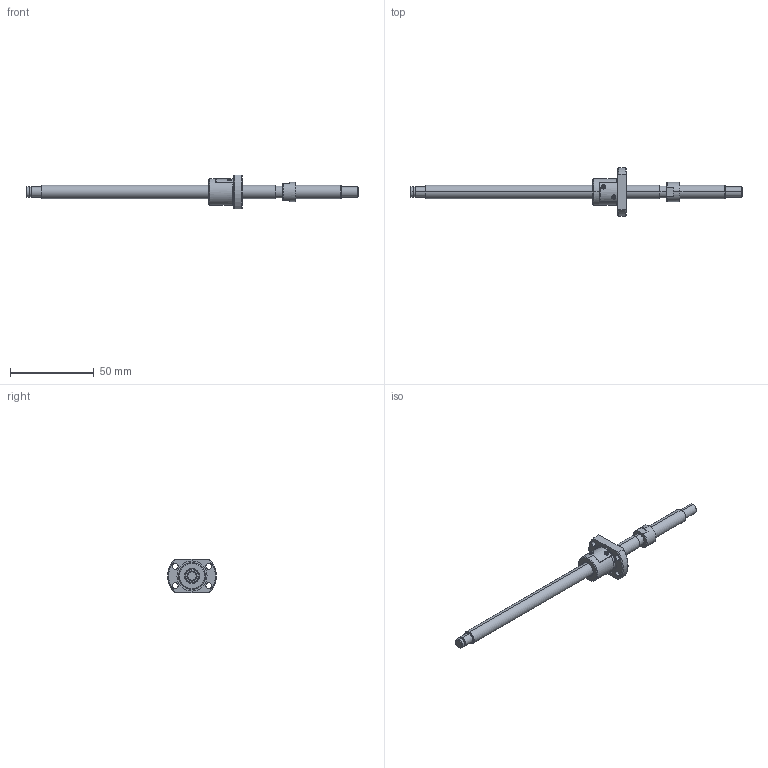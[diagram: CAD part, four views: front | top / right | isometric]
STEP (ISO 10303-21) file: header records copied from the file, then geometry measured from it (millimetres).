
FILE_DESCRIPTION (( 'STEP AP214' ), '1' );
FILE_NAME ('BS0801P-3D.STEP', '2014-03-05T15:15:29', ( '' ), ( '' ), 'SwSTEP 2.0', 'SolidWorks 2012', '' );
FILE_SCHEMA (( 'AUTOMOTIVE_DESIGN' ));
Length unit declared in the file: millimetre
Products named in the file (3): BS0801Pナット; BS0801PŽ²; BS0801P-3D
Assembly tree (2 placements, depth 2):
  BS0801P-3D
    BS0801PŽ²
    BS0801Pナット
Bounding box: 198 x 28.9 x 20 mm (x, y, z)
Volume: 14163.6 mm3; surface area: 8053.6 mm2
Topology: 2 solids, 2 shells, 139 faces, 332 edges, 212 vertices
Faces by surface type: plane 58, cylinder 55, cone 26
Entity records: 4316 total; most frequent: CARTESIAN_POINT 880, DIRECTION 732, ORIENTED_EDGE 664, EDGE_CURVE 332, AXIS2_PLACEMENT_3D 276, VERTEX_POINT 212, VECTOR 180, LINE 180
